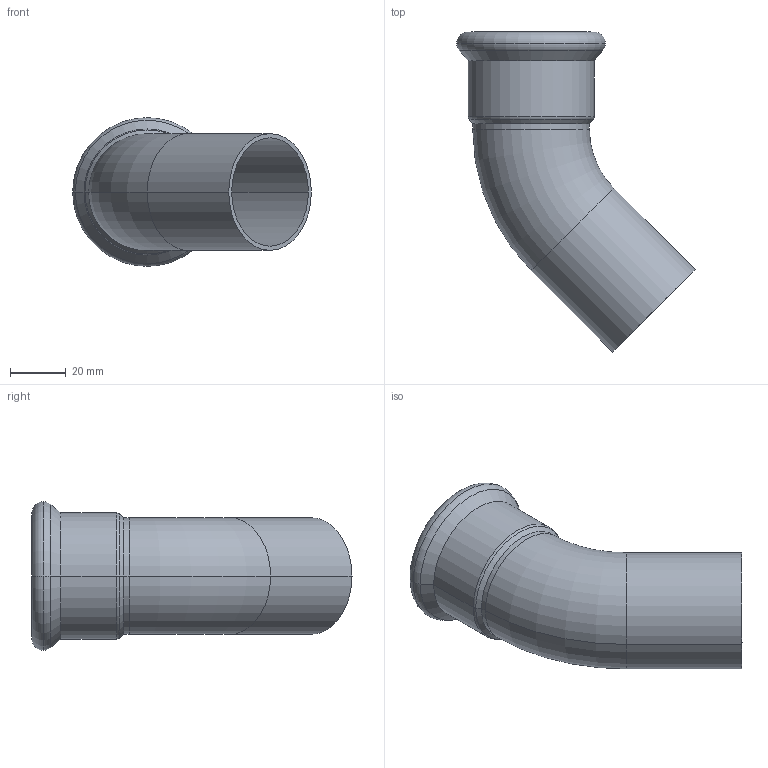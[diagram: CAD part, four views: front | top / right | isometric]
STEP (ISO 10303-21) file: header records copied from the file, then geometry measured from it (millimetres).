
FILE_DESCRIPTION(('CoCreate Modeling STEP Export'),'2;1');
FILE_NAME('C1412 42x42.stp','2014-11-11T16:43:35',(''),(''),'CoCreate Modeling STEP processor for AP214 (Solid Model)','CoCreate Modeling 17.00A 17-Jun-2010 (C) Parametric Technology GmbH','');
FILE_SCHEMA(('AUTOMOTIVE_DESIGN { 1 0 10303 214 1 1 1 1 }'));
Length unit declared in the file: millimetre
Products named in the file (2): C1412_42x42
Assembly tree (1 placements, depth 2):
  C1412_42x42
    C1412_42x42
Bounding box: 85.89 x 115.21 x 53.55 mm (x, y, z)
Volume: 27524 mm3; surface area: 31882.7 mm2
Topology: 1 solids, 1 shells, 32 faces, 67 edges, 39 vertices
Faces by surface type: cylinder 14, torus 10, plane 4, cone 4
Entity records: 743 total; most frequent: ORIENTED_EDGE 134, DIRECTION 116, CARTESIAN_POINT 106, EDGE_CURVE 67, AXIS2_PLACEMENT_3D 49, VERTEX_POINT 39, EDGE_LOOP 36, FACE_OUTER_BOUND 32
